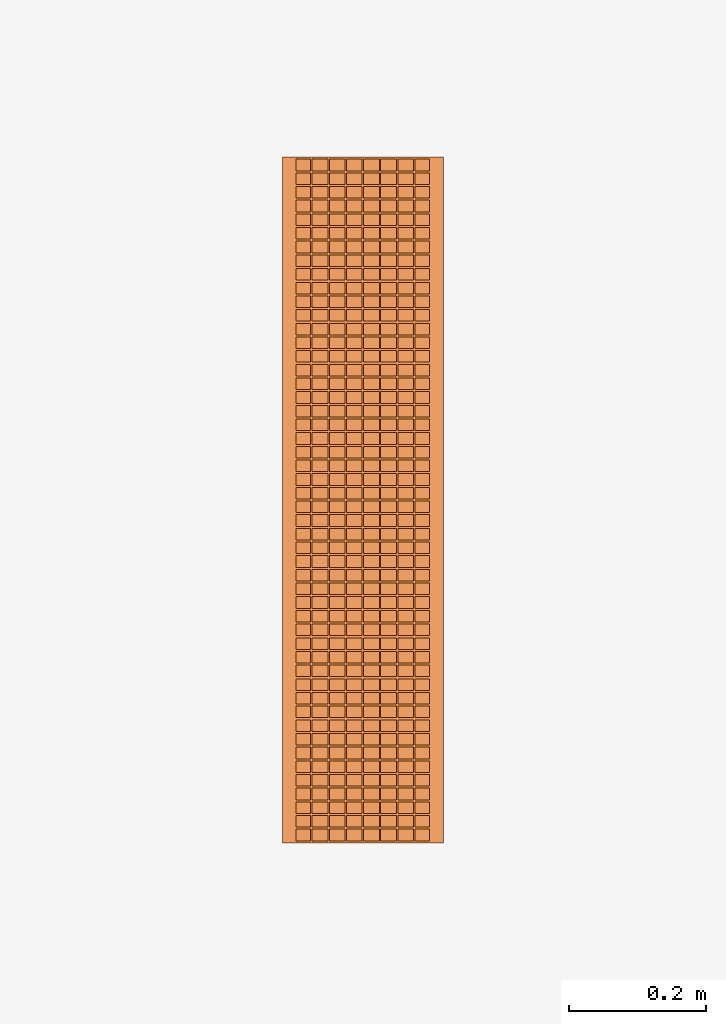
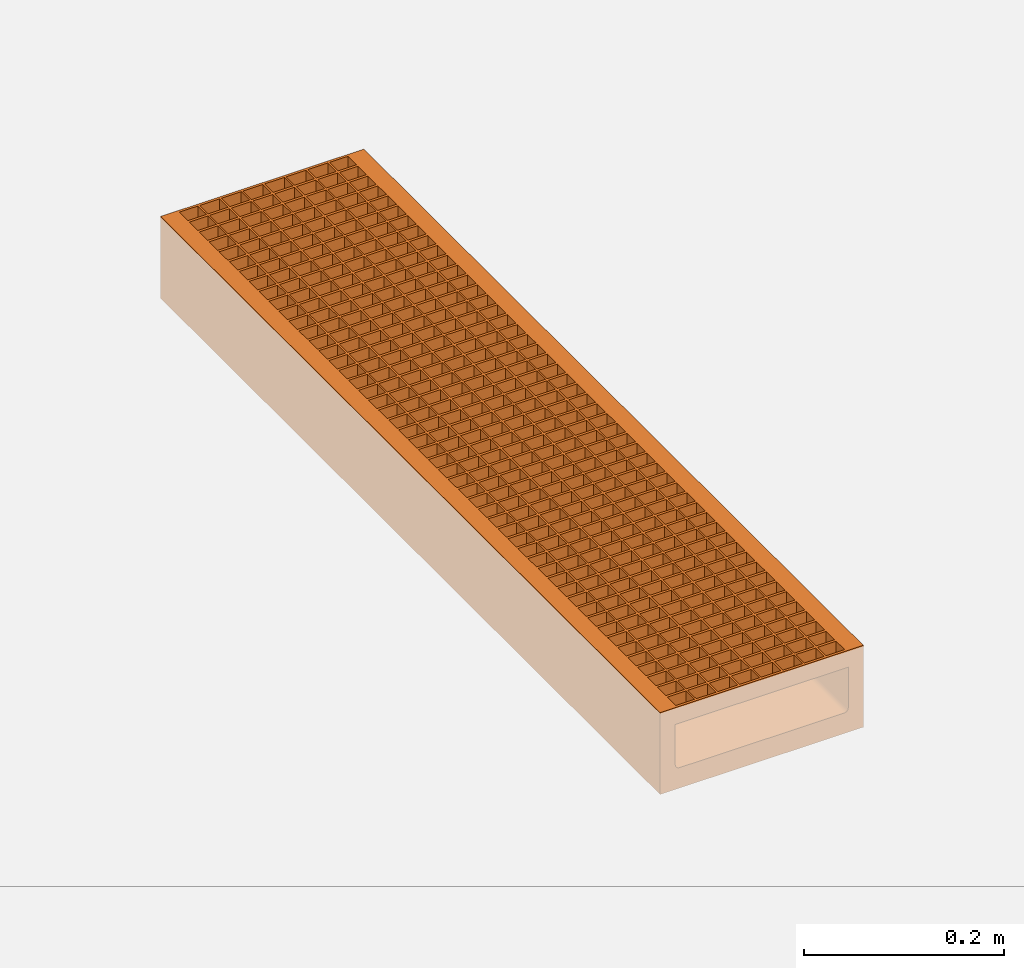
# One storey, part 2 of 2: 1 proxy.
"""IFC2X3 building model written with IfcOpenShell, lengths in millimetres."""

from ifc_helpers import new_model, entity, si_unit, converted_unit, direction, frame, frame_2d, origin, origin_2d_with_axis, place, context, subcontext, project, spatial, polyline, circle_curve, parameter, trimmed, segment, composite_curve, rectangle, outline, extrude, source, transform, mapped, material, material_list, element, save


model = new_model("IFC2X3")

# Units and contexts
model_context = context("Model", 3, precision=1e-06, world=origin(), true_north=direction((2.0, 6.12303176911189e-17, 1.0)))
context_of_model = context(None, 3, precision=1e-06, world=origin(), true_north=direction((2.0, 6.12303176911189e-17, 1.0)))
body_context = subcontext(model_context, "Body", "Model", "MODEL_VIEW")
ifc_project = project(units=[si_unit("LENGTHUNIT", "METRE", prefix="MILLI"), si_unit("AREAUNIT", "SQUARE_METRE", prefix="MILLI"), si_unit("VOLUMEUNIT", "CUBIC_METRE", prefix="MILLI"), converted_unit("PLANEANGLEUNIT", "DEGREE", entity("IfcRatioMeasure", 0.0174532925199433), si_unit("PLANEANGLEUNIT", "RADIAN"), dimensions=[0, 0, 0, 0, 0, 0, 0]), si_unit("TIMEUNIT", "SECOND")], contexts=[model_context, context_of_model])

# Site, building, storey
site_placement = place(None, origin())
site = spatial("IfcSite", under=ifc_project, at=site_placement, Name="Default", CompositionType="ELEMENT")
building_placement = place(site_placement, origin())
building = spatial("IfcBuilding", under=site, at=building_placement, CompositionType="ELEMENT")
storey_placement = place(building_placement, origin())
storey = spatial("IfcBuildingStorey", under=building, at=storey_placement, Name="Level 1", CompositionType="ELEMENT", Elevation=0.0)

# Proxy
ifc_material = material(Name="Vienite® Synthetic Resin Concrete")
ifc_material_list = material_list([ifc_material])
shared_shape = source(origin(), body_context, "Body", "SweptSolid", [
    extrude(rectangle(XDim=1000.0, YDim=15.7499999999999, at=origin_2d_with_axis()), frame((105.374999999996, 500.0, -20.5000000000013), z_axis=(0.0, 0.0, 1.0), x_axis=(0.0, 1.0, 0.0)), (0.0, 0.0, 1.0), 20.5),
    extrude(rectangle(XDim=1000.0, YDim=15.7499999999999, at=origin_2d_with_axis()), frame((-105.375000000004, 500.0, -20.5000000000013), z_axis=(0.0, 0.0, 1.0), x_axis=(0.0, 1.0, 0.0)), (0.0, 0.0, 1.0), 20.5),
    extrude(rectangle(XDim=1000.0, YDim=1.99999999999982, at=origin_2d_with_axis()), frame((-50.0, 500.0, -20.5000000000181), z_axis=(0.0, 0.0, 1.0), x_axis=(0.0, 1.0, 0.0)), (0.0, 0.0, 1.0), 20.5000000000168),
    extrude(rectangle(XDim=1000.0, YDim=1.99999999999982, at=origin_2d_with_axis()), frame((50.0, 500.0, -20.5000000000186), z_axis=(0.0, 0.0, 1.0), x_axis=(0.0, 1.0, 0.0)), (0.0, 0.0, 1.0), 20.5000000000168),
    extrude(rectangle(XDim=1000.0, YDim=2.00000000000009, at=origin_2d_with_axis()), frame((-25.0, 500.0, -20.5000000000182), z_axis=(0.0, 0.0, 1.0), x_axis=(0.0, 1.0, 0.0)), (0.0, 0.0, 1.0), 20.5000000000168),
    extrude(rectangle(XDim=1000.0, YDim=1.99999999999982, at=origin_2d_with_axis()), frame((0.0, 500.0, -20.5000000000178), z_axis=(0.0, 0.0, 1.0), x_axis=(0.0, 1.0, 0.0)), (0.0, 0.0, 1.0), 20.500000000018),
    extrude(rectangle(XDim=1000.0, YDim=2.00000000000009, at=origin_2d_with_axis()), frame((25.0, 500.0, -20.5000000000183), z_axis=(0.0, 0.0, 1.0), x_axis=(0.0, 1.0, 0.0)), (0.0, 0.0, 1.0), 20.5000000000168),
    extrude(rectangle(XDim=1000.0, YDim=2.00000000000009, at=origin_2d_with_axis()), frame((-75.0, 500.0, -20.5000000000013), z_axis=(0.0, 0.0, 1.0), x_axis=(0.0, 1.0, 0.0)), (0.0, 0.0, 1.0), 20.5),
    extrude(rectangle(XDim=1000.0, YDim=2.00000000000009, at=origin_2d_with_axis()), frame((75.0, 500.0, -20.5000000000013), z_axis=(0.0, 0.0, 1.0), x_axis=(0.0, 1.0, 0.0)), (0.0, 0.0, 1.0), 20.5),
    extrude(rectangle(XDim=2.99999999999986, YDim=195.0, at=origin_2d_with_axis()), frame((0.0, 998.500000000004, -20.5000000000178), z_axis=(0.0, 0.0, 1.0), x_axis=(0.0, 1.0, 0.0)), (0.0, 0.0, 1.0), 20.5),
    extrude(rectangle(XDim=3.00000000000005, YDim=195.0, at=frame_2d((-2.08721928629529e-14, 0.0), x_axis=(1.0, 0.0))), frame((0.0, 1.50000000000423, -20.5000000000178), z_axis=(0.0, 0.0, 1.0), x_axis=(0.0, 1.0, 0.0)), (0.0, 0.0, 1.0), 20.5),
    extrude(rectangle(XDim=3.00000000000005, YDim=195.0, at=frame_2d((-1.89848137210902e-14, 0.0), x_axis=(1.0, 0.0))), frame((0.0, 21.4400000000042, -20.5000000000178), z_axis=(0.0, 0.0, 1.0), x_axis=(0.0, 1.0, 0.0)), (0.0, 0.0, 1.0), 20.5),
    extrude(rectangle(XDim=3.00000000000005, YDim=195.0, at=frame_2d((-1.68753899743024e-14, 0.0), x_axis=(1.0, 0.0))), frame((0.0, 41.3800000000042, -20.5000000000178), z_axis=(0.0, 0.0, 1.0), x_axis=(0.0, 1.0, 0.0)), (0.0, 0.0, 1.0), 20.5),
    extrude(rectangle(XDim=3.00000000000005, YDim=195.0, at=frame_2d((-1.68753899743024e-14, 0.0), x_axis=(1.0, 0.0))), frame((0.0, 61.3200000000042, -20.5000000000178), z_axis=(0.0, 0.0, 1.0), x_axis=(0.0, 1.0, 0.0)), (0.0, 0.0, 1.0), 20.5),
    extrude(rectangle(XDim=3.00000000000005, YDim=195.0, at=frame_2d((-1.68753899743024e-14, 0.0), x_axis=(1.0, 0.0))), frame((0.0, 81.2600000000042, -20.5000000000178), z_axis=(0.0, 0.0, 1.0), x_axis=(0.0, 1.0, 0.0)), (0.0, 0.0, 1.0), 20.5),
    extrude(rectangle(XDim=3.00000000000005, YDim=195.0, at=frame_2d((-3.38618022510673e-14, 0.0), x_axis=(1.0, 0.0))), frame((0.0, 101.200000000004, -20.5000000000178), z_axis=(0.0, 0.0, 1.0), x_axis=(0.0, 1.0, 0.0)), (0.0, 0.0, 1.0), 20.5),
    extrude(rectangle(XDim=3.00000000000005, YDim=195.0, at=frame_2d((-1.68753899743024e-14, 0.0), x_axis=(1.0, 0.0))), frame((0.0, 121.140000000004, -20.5000000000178), z_axis=(0.0, 0.0, 1.0), x_axis=(0.0, 1.0, 0.0)), (0.0, 0.0, 1.0), 20.5),
    extrude(rectangle(XDim=3.00000000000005, YDim=195.0, at=frame_2d((-1.68753899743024e-14, 0.0), x_axis=(1.0, 0.0))), frame((0.0, 141.080000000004, -20.5000000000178), z_axis=(0.0, 0.0, 1.0), x_axis=(0.0, 1.0, 0.0)), (0.0, 0.0, 1.0), 20.5),
    extrude(rectangle(XDim=3.00000000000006, YDim=195.0, at=frame_2d((-3.38618022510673e-14, 0.0), x_axis=(1.0, 0.0))), frame((0.0, 161.020000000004, -20.5000000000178), z_axis=(0.0, 0.0, 1.0), x_axis=(0.0, 1.0, 0.0)), (0.0, 0.0, 1.0), 20.5),
    extrude(rectangle(XDim=3.00000000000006, YDim=195.0, at=frame_2d((-3.38618022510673e-14, 0.0), x_axis=(1.0, 0.0))), frame((0.0, 180.960000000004, -20.5000000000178), z_axis=(0.0, 0.0, 1.0), x_axis=(0.0, 1.0, 0.0)), (0.0, 0.0, 1.0), 20.5),
    extrude(rectangle(XDim=3.00000000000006, YDim=195.0, at=frame_2d((-3.38618022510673e-14, 0.0), x_axis=(1.0, 0.0))), frame((0.0, 200.900000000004, -20.5000000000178), z_axis=(0.0, 0.0, 1.0), x_axis=(0.0, 1.0, 0.0)), (0.0, 0.0, 1.0), 20.5),
    extrude(rectangle(XDim=3.00000000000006, YDim=195.0, at=frame_2d((-3.38618022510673e-14, 0.0), x_axis=(1.0, 0.0))), frame((0.0, 220.840000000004, -20.5000000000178), z_axis=(0.0, 0.0, 1.0), x_axis=(0.0, 1.0, 0.0)), (0.0, 0.0, 1.0), 20.5),
    extrude(rectangle(XDim=3.00000000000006, YDim=195.0, at=frame_2d((-3.38618022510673e-14, 0.0), x_axis=(1.0, 0.0))), frame((0.0, 240.780000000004, -20.5000000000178), z_axis=(0.0, 0.0, 1.0), x_axis=(0.0, 1.0, 0.0)), (0.0, 0.0, 1.0), 20.5),
    extrude(rectangle(XDim=3.00000000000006, YDim=195.0, at=origin_2d_with_axis()), frame((0.0, 260.720000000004, -20.5000000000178), z_axis=(0.0, 0.0, 1.0), x_axis=(0.0, 1.0, 0.0)), (0.0, 0.0, 1.0), 20.5),
    extrude(rectangle(XDim=3.00000000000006, YDim=195.0, at=frame_2d((-3.38618022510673e-14, 0.0), x_axis=(1.0, 0.0))), frame((0.0, 280.660000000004, -20.5000000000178), z_axis=(0.0, 0.0, 1.0), x_axis=(0.0, 1.0, 0.0)), (0.0, 0.0, 1.0), 20.5),
    extrude(rectangle(XDim=3.00000000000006, YDim=195.0, at=frame_2d((-3.38618022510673e-14, 0.0), x_axis=(1.0, 0.0))), frame((0.0, 300.600000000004, -20.5000000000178), z_axis=(0.0, 0.0, 1.0), x_axis=(0.0, 1.0, 0.0)), (0.0, 0.0, 1.0), 20.5),
    extrude(rectangle(XDim=2.99999999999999, YDim=195.0, at=origin_2d_with_axis()), frame((0.0, 320.540000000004, -20.5000000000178), z_axis=(0.0, 0.0, 1.0), x_axis=(0.0, 1.0, 0.0)), (0.0, 0.0, 1.0), 20.5),
    extrude(rectangle(XDim=2.99999999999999, YDim=195.0, at=origin_2d_with_axis()), frame((0.0, 340.480000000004, -20.5000000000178), z_axis=(0.0, 0.0, 1.0), x_axis=(0.0, 1.0, 0.0)), (0.0, 0.0, 1.0), 20.5),
    extrude(rectangle(XDim=2.99999999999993, YDim=195.0, at=frame_2d((-3.37507799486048e-14, 0.0), x_axis=(1.0, 0.0))), frame((0.0, 360.420000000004, -20.5000000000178), z_axis=(0.0, 0.0, 1.0), x_axis=(0.0, 1.0, 0.0)), (0.0, 0.0, 1.0), 20.5),
    extrude(rectangle(XDim=2.99999999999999, YDim=195.0, at=origin_2d_with_axis()), frame((0.0, 380.360000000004, -20.5000000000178), z_axis=(0.0, 0.0, 1.0), x_axis=(0.0, 1.0, 0.0)), (0.0, 0.0, 1.0), 20.5),
    extrude(rectangle(XDim=2.99999999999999, YDim=195.0, at=origin_2d_with_axis()), frame((0.0, 400.300000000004, -20.5000000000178), z_axis=(0.0, 0.0, 1.0), x_axis=(0.0, 1.0, 0.0)), (0.0, 0.0, 1.0), 20.5),
    extrude(rectangle(XDim=2.99999999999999, YDim=195.0, at=origin_2d_with_axis()), frame((0.0, 420.240000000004, -20.5000000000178), z_axis=(0.0, 0.0, 1.0), x_axis=(0.0, 1.0, 0.0)), (0.0, 0.0, 1.0), 20.5),
    extrude(rectangle(XDim=2.99999999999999, YDim=195.0, at=origin_2d_with_axis()), frame((0.0, 440.180000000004, -20.5000000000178), z_axis=(0.0, 0.0, 1.0), x_axis=(0.0, 1.0, 0.0)), (0.0, 0.0, 1.0), 20.5),
    extrude(rectangle(XDim=2.99999999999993, YDim=195.0, at=frame_2d((-3.37507799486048e-14, 0.0), x_axis=(1.0, 0.0))), frame((0.0, 460.120000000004, -20.5000000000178), z_axis=(0.0, 0.0, 1.0), x_axis=(0.0, 1.0, 0.0)), (0.0, 0.0, 1.0), 20.5),
    extrude(rectangle(XDim=2.99999999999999, YDim=195.0, at=frame_2d((-6.7612582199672e-14, 0.0), x_axis=(1.0, 0.0))), frame((0.0, 480.060000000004, -20.5000000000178), z_axis=(0.0, 0.0, 1.0), x_axis=(0.0, 1.0, 0.0)), (0.0, 0.0, 1.0), 20.5),
    extrude(rectangle(XDim=2.99999999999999, YDim=195.0, at=origin_2d_with_axis()), frame((0.0, 500.0, -20.5000000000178), z_axis=(0.0, 0.0, 1.0), x_axis=(0.0, 1.0, 0.0)), (0.0, 0.0, 1.0), 20.5),
    extrude(rectangle(XDim=2.99999999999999, YDim=195.0, at=origin_2d_with_axis()), frame((0.0, 519.939999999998, -20.5000000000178), z_axis=(0.0, 0.0, 1.0), x_axis=(0.0, 1.0, 0.0)), (0.0, 0.0, 1.0), 20.5),
    extrude(rectangle(XDim=2.99999999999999, YDim=195.0, at=origin_2d_with_axis()), frame((0.0, 539.879999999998, -20.5000000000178), z_axis=(0.0, 0.0, 1.0), x_axis=(0.0, 1.0, 0.0)), (0.0, 0.0, 1.0), 20.5),
    extrude(rectangle(XDim=2.99999999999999, YDim=195.0, at=origin_2d_with_axis()), frame((0.0, 559.819999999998, -20.5000000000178), z_axis=(0.0, 0.0, 1.0), x_axis=(0.0, 1.0, 0.0)), (0.0, 0.0, 1.0), 20.5),
    extrude(rectangle(XDim=2.99999999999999, YDim=195.0, at=origin_2d_with_axis()), frame((0.0, 579.759999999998, -20.5000000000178), z_axis=(0.0, 0.0, 1.0), x_axis=(0.0, 1.0, 0.0)), (0.0, 0.0, 1.0), 20.5),
    extrude(rectangle(XDim=2.99999999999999, YDim=195.0, at=origin_2d_with_axis()), frame((0.0, 599.699999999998, -20.5000000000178), z_axis=(0.0, 0.0, 1.0), x_axis=(0.0, 1.0, 0.0)), (0.0, 0.0, 1.0), 20.5),
    extrude(rectangle(XDim=2.99999999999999, YDim=195.0, at=frame_2d((-6.7612582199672e-14, 0.0), x_axis=(1.0, 0.0))), frame((0.0, 619.639999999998, -20.5000000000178), z_axis=(0.0, 0.0, 1.0), x_axis=(0.0, 1.0, 0.0)), (0.0, 0.0, 1.0), 20.5),
    extrude(rectangle(XDim=2.99999999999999, YDim=195.0, at=frame_2d((-6.7612582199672e-14, 0.0), x_axis=(1.0, 0.0))), frame((0.0, 639.579999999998, -20.5000000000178), z_axis=(0.0, 0.0, 1.0), x_axis=(0.0, 1.0, 0.0)), (0.0, 0.0, 1.0), 20.5),
    extrude(rectangle(XDim=2.99999999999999, YDim=195.0, at=frame_2d((6.7612582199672e-14, 0.0), x_axis=(1.0, 0.0))), frame((0.0, 659.519999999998, -20.5000000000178), z_axis=(0.0, 0.0, 1.0), x_axis=(0.0, 1.0, 0.0)), (0.0, 0.0, 1.0), 20.5),
    extrude(rectangle(XDim=2.99999999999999, YDim=195.0, at=frame_2d((6.7612582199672e-14, 0.0), x_axis=(1.0, 0.0))), frame((0.0, 679.459999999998, -20.5000000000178), z_axis=(0.0, 0.0, 1.0), x_axis=(0.0, 1.0, 0.0)), (0.0, 0.0, 1.0), 20.5),
    extrude(rectangle(XDim=2.99999999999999, YDim=195.0, at=frame_2d((6.7612582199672e-14, 0.0), x_axis=(1.0, 0.0))), frame((0.0, 699.399999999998, -20.5000000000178), z_axis=(0.0, 0.0, 1.0), x_axis=(0.0, 1.0, 0.0)), (0.0, 0.0, 1.0), 20.5),
    extrude(rectangle(XDim=3.00000000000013, YDim=195.0, at=origin_2d_with_axis()), frame((0.0, 719.339999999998, -20.5000000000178), z_axis=(0.0, 0.0, 1.0), x_axis=(0.0, 1.0, 0.0)), (0.0, 0.0, 1.0), 20.5),
    extrude(rectangle(XDim=2.99999999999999, YDim=195.0, at=frame_2d((-6.7612582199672e-14, 0.0), x_axis=(1.0, 0.0))), frame((0.0, 739.279999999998, -20.5000000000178), z_axis=(0.0, 0.0, 1.0), x_axis=(0.0, 1.0, 0.0)), (0.0, 0.0, 1.0), 20.5),
    extrude(rectangle(XDim=2.99999999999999, YDim=195.0, at=frame_2d((-6.7612582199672e-14, 0.0), x_axis=(1.0, 0.0))), frame((0.0, 759.219999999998, -20.5000000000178), z_axis=(0.0, 0.0, 1.0), x_axis=(0.0, 1.0, 0.0)), (0.0, 0.0, 1.0), 20.5),
    extrude(rectangle(XDim=2.99999999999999, YDim=195.0, at=frame_2d((-6.7612582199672e-14, 0.0), x_axis=(1.0, 0.0))), frame((0.0, 779.159999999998, -20.5000000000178), z_axis=(0.0, 0.0, 1.0), x_axis=(0.0, 1.0, 0.0)), (0.0, 0.0, 1.0), 20.5),
    extrude(rectangle(XDim=2.99999999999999, YDim=195.0, at=frame_2d((6.7612582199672e-14, 0.0), x_axis=(1.0, 0.0))), frame((0.0, 799.099999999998, -20.5000000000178), z_axis=(0.0, 0.0, 1.0), x_axis=(0.0, 1.0, 0.0)), (0.0, 0.0, 1.0), 20.5),
    extrude(rectangle(XDim=2.99999999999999, YDim=195.0, at=frame_2d((6.7612582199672e-14, 0.0), x_axis=(1.0, 0.0))), frame((0.0, 819.039999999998, -20.5000000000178), z_axis=(0.0, 0.0, 1.0), x_axis=(0.0, 1.0, 0.0)), (0.0, 0.0, 1.0), 20.5),
    extrude(rectangle(XDim=3.00000000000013, YDim=195.0, at=origin_2d_with_axis()), frame((0.0, 838.979999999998, -20.5000000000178), z_axis=(0.0, 0.0, 1.0), x_axis=(0.0, 1.0, 0.0)), (0.0, 0.0, 1.0), 20.5),
    extrude(rectangle(XDim=2.99999999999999, YDim=195.0, at=frame_2d((-6.7612582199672e-14, 0.0), x_axis=(1.0, 0.0))), frame((0.0, 858.919999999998, -20.5000000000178), z_axis=(0.0, 0.0, 1.0), x_axis=(0.0, 1.0, 0.0)), (0.0, 0.0, 1.0), 20.5),
    extrude(rectangle(XDim=2.99999999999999, YDim=195.0, at=frame_2d((-6.7612582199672e-14, 0.0), x_axis=(1.0, 0.0))), frame((0.0, 878.859999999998, -20.5000000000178), z_axis=(0.0, 0.0, 1.0), x_axis=(0.0, 1.0, 0.0)), (0.0, 0.0, 1.0), 20.5),
    extrude(rectangle(XDim=3.00000000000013, YDim=195.0, at=frame_2d((-1.35336186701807e-13, 0.0), x_axis=(1.0, 0.0))), frame((0.0, 898.799999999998, -20.5000000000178), z_axis=(0.0, 0.0, 1.0), x_axis=(0.0, 1.0, 0.0)), (0.0, 0.0, 1.0), 20.5),
    extrude(rectangle(XDim=3.00000000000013, YDim=195.0, at=origin_2d_with_axis()), frame((0.0, 918.739999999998, -20.5000000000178), z_axis=(0.0, 0.0, 1.0), x_axis=(0.0, 1.0, 0.0)), (0.0, 0.0, 1.0), 20.5),
    extrude(rectangle(XDim=2.99999999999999, YDim=195.0, at=frame_2d((-6.7612582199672e-14, 0.0), x_axis=(1.0, 0.0))), frame((0.0, 938.679999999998, -20.5000000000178), z_axis=(0.0, 0.0, 1.0), x_axis=(0.0, 1.0, 0.0)), (0.0, 0.0, 1.0), 20.5),
    extrude(rectangle(XDim=2.99999999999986, YDim=195.0, at=origin_2d_with_axis()), frame((0.0, 958.619999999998, -20.5000000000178), z_axis=(0.0, 0.0, 1.0), x_axis=(0.0, 1.0, 0.0)), (0.0, 0.0, 1.0), 20.5),
    extrude(rectangle(XDim=2.99999999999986, YDim=195.0, at=origin_2d_with_axis()), frame((0.0, 978.559999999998, -20.5000000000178), z_axis=(0.0, 0.0, 1.0), x_axis=(0.0, 1.0, 0.0)), (0.0, 0.0, 1.0), 20.5),
    extrude(outline(composite_curve([segment(polyline([(-40.857142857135, -117.499999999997), (59.1428571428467, -117.499999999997)]), True, "CONTINUOUS"), segment(polyline([(59.1428571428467, -117.499999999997), (59.1428571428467, 117.499999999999)]), True, "CONTINUOUS"), segment(polyline([(59.1428571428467, 117.499999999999), (-40.857142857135, 117.499999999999)]), True, "CONTINUOUS"), segment(polyline([(-40.857142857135, 117.499999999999), (-40.857142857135, 113.249999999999)]), True, "CONTINUOUS"), segment(polyline([(-40.857142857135, 113.249999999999), (-20.357142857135, 113.249999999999)]), True, "CONTINUOUS"), segment(polyline([(-20.357142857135, 113.249999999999), (-20.357142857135, 100.0)]), True, "CONTINUOUS"), segment(polyline([(-20.357142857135, 100.0), (29.1428571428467, 100.0)]), True, "CONTINUOUS"), segment(trimmed(circle_curve(frame_2d((29.1428571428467, 95.0), x_axis=(0.0, -1.0)), 5.0), [parameter(89.9999999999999)], [parameter(180.0)], True, "PARAMETER"), False, "CONTINUOUS"), segment(polyline([(34.1428571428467, 95.0), (34.1428571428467, -95.0)]), True, "CONTINUOUS"), segment(trimmed(circle_curve(frame_2d((29.1428571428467, -95.0), x_axis=(0.0, -1.0)), 5.0), [parameter(360.0)], [parameter(89.9999999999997)], True, "PARAMETER"), False, "CONTINUOUS"), segment(polyline([(29.1428571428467, -100.0), (-20.357142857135, -100.0)]), True, "CONTINUOUS"), segment(polyline([(-20.357142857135, -100.0), (-20.357142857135, -113.25)]), True, "CONTINUOUS"), segment(polyline([(-20.357142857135, -113.25), (-40.857142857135, -113.25)]), True, "CONTINUOUS"), segment(polyline([(-40.857142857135, -113.25), (-40.857142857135, -117.499999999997)]), True, "CONTINUOUS")], self_intersect=False)), frame((0.0, 0.0, -40.8571428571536), z_axis=(0.0, 1.0, 0.0), x_axis=(0.0, 0.0, -1.0)), (0.0, 0.0, 1.0), 1000.0),
])
proxy_placement = place(storey_placement, frame((109.609296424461, -1747.00003233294, 0.0)))
element("IfcBuildingElementProxy", 1, at=proxy_placement, inside=storey, material=ifc_material_list, Name="Civil-Drainage-Channel-ACO-MultiDrain-M200DS-Channel-System:24216 - No 0100 Shallow Depth Channel - 1000mm LG - Invert Depth 75mm:24216 - No 0100 Shallow Depth Channel - 1000mm LG - Invert Depth 75mm", ObjectType="24216 - No 0100 Shallow Depth Channel - 1000mm LG - Invert Depth 75mm", CompositionType="ELEMENT", context=body_context, shape_type="MappedRepresentation", body=[
    mapped(shared_shape, transform((0.0, 0.0, 0.0), scale=1.0)),
])

save(model, "model.ifc")
